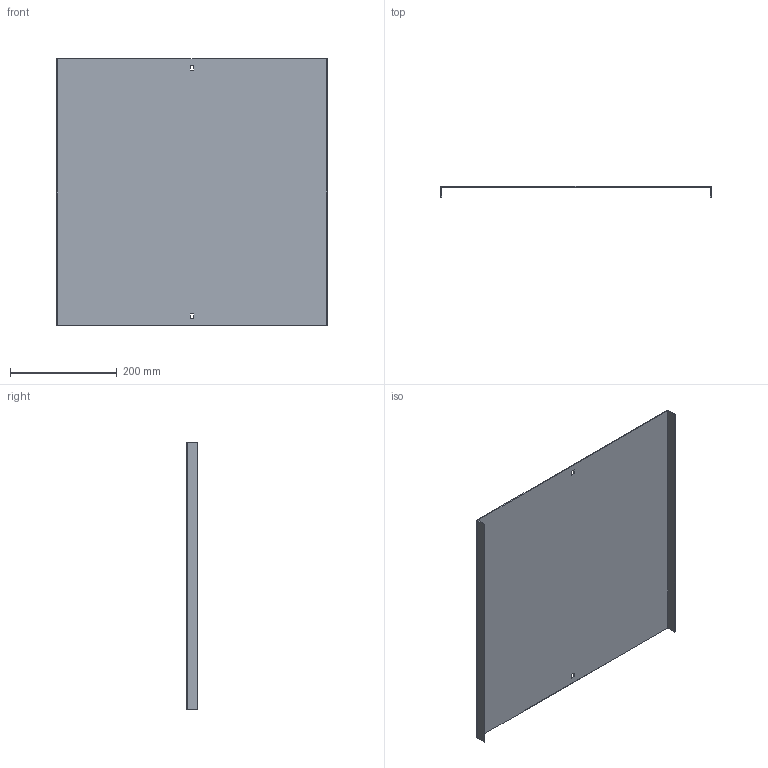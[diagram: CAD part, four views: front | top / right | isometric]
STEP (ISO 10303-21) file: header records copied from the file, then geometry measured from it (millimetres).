
FILE_DESCRIPTION (( 'STEP AP214' ), '1' );
FILE_NAME ('05G7R500.step', '2025-02-21T13:08:36', ( '' ), ( '' ), 'SwSTEP 2.0', 'SolidWorks 2023', '' );
FILE_SCHEMA (( 'AUTOMOTIVE_DESIGN' ));
Length unit declared in the file: millimetre
Products named in the file (1): 05G7R500
Bounding box: 507 x 20 x 500 mm (x, y, z)
Volume: 407824.5 mm3; surface area: 546991 mm2
Topology: 1 solids, 1 shells, 18 faces, 48 edges, 32 vertices
Faces by surface type: plane 18
Entity records: 583 total; most frequent: CARTESIAN_POINT 99, ORIENTED_EDGE 96, DIRECTION 86, VECTOR 48, EDGE_CURVE 48, LINE 48, VERTEX_POINT 32, EDGE_LOOP 22
